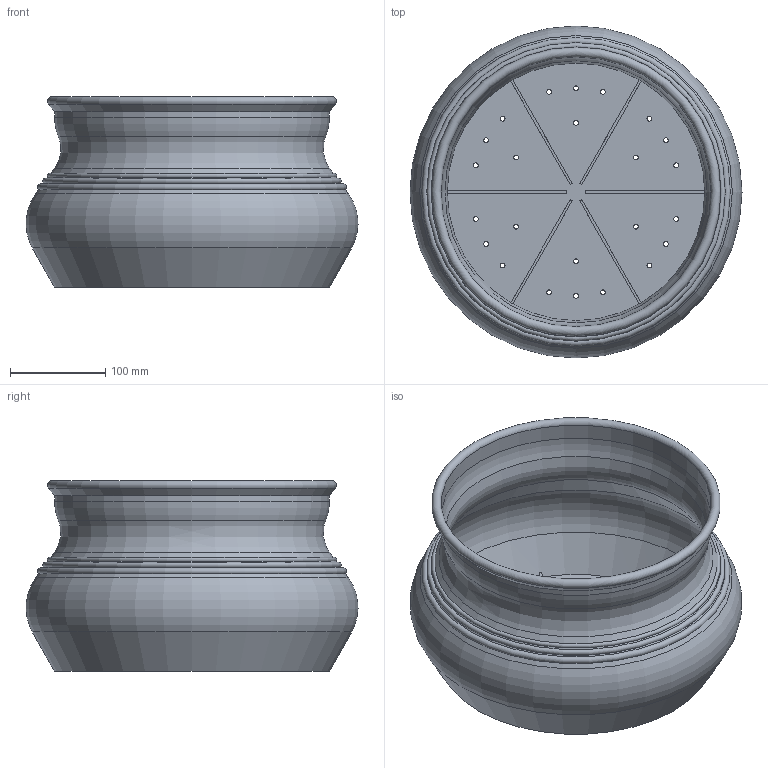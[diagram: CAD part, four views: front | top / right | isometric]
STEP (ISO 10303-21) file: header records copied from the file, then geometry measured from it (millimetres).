
FILE_DESCRIPTION(/* description */ (''),/* implementation_level */ '2;1');
FILE_NAME(/* name */ 'LR2406-S25-H200-D350_step.step',/* time_stamp */ '2024-02-01T10:59:43+01:00',/* author */ (''),/* organization */ (''),/* preprocessor_version */ 'ST-DEVELOPER v20',/* originating_system */ 'Autodesk Translation Framework v12.20.1.177',/* authorisation */ '');
FILE_SCHEMA (('AUTOMOTIVE_DESIGN { 1 0 10303 214 3 1 1 }'));
Length unit declared in the file: millimetre
Products named in the file (1): LR2406-S25-H200-D350
Bounding box: 347.98 x 347.98 x 200 mm (x, y, z)
Volume: 742844.7 mm3; surface area: 569399.3 mm2
Topology: 1 solids, 1 shells, 70 faces, 185 edges, 117 vertices
Faces by surface type: cylinder 32, plane 20, torus 10, cone 8
Full cylindrical faces by diameter (mm): 5 x24, 283 x1, 288 x1
Entity records: 2336 total; most frequent: DIRECTION 430, CARTESIAN_POINT 373, ORIENTED_EDGE 370, EDGE_CURVE 185, AXIS2_PLACEMENT_3D 174, EDGE_LOOP 118, VERTEX_POINT 117, CIRCLE 103
